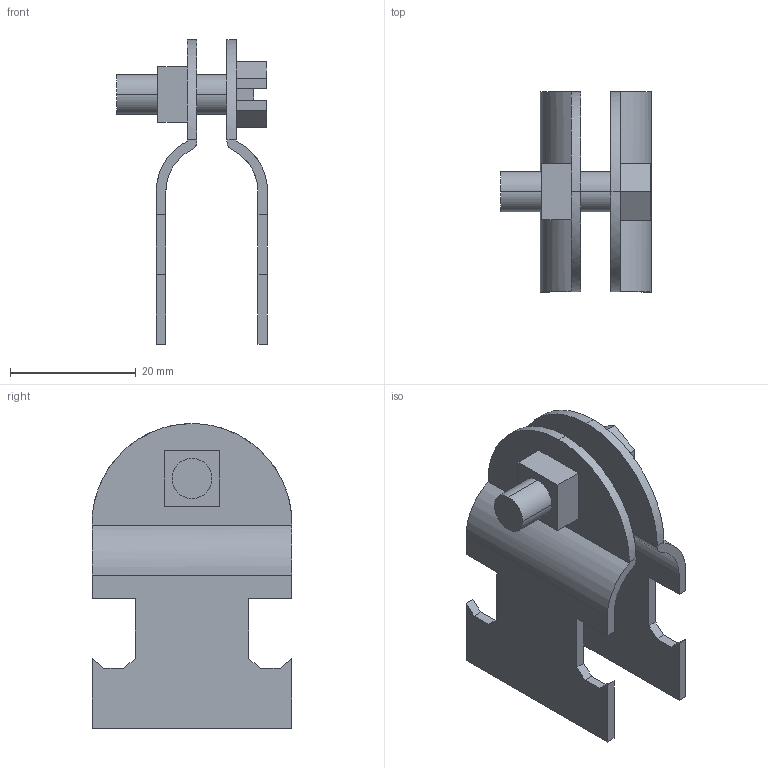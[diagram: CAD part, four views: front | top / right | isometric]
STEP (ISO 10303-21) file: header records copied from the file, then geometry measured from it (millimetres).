
FILE_DESCRIPTION(('TurboCAD Mac Pro'),'Build 980');
FILE_NAME('P1425.stp',' ',(''),(''),'ACIS Interop','IMSI','TurboCAD Mac Pro BY IMSI, INCORPORATED');
FILE_SCHEMA(('automotive_design'));
Length unit declared in the file: inch
Products named in the file (4): 1; 2; 3; 4
Bounding box: 23.98 x 31.74 x 48.42 mm (x, y, z)
Volume: 5196.7 mm3; surface area: 6974.6 mm2
Topology: 4 solids, 4 shells, 83 faces, 218 edges, 144 vertices
Faces by surface type: plane 65, bspline 18
Entity records: 4339 total; most frequent: CARTESIAN_POINT 683, ORIENTED_EDGE 436, DIRECTION 320, STYLED_ITEM 281, PRESENTATION_STYLE_ASSIGNMENT 281, COLOUR_RGB 281, EDGE_CURVE 218, CURVE_STYLE 194
